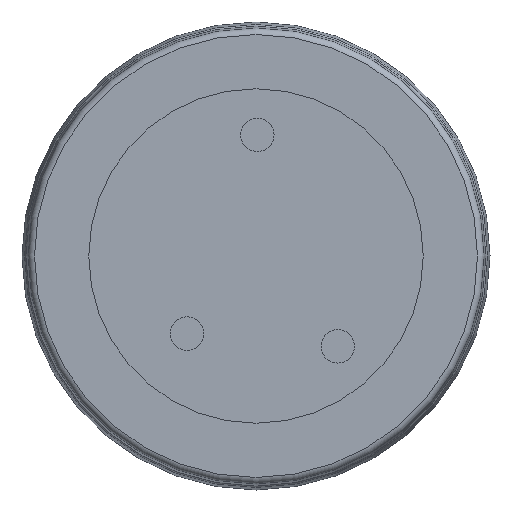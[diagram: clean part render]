
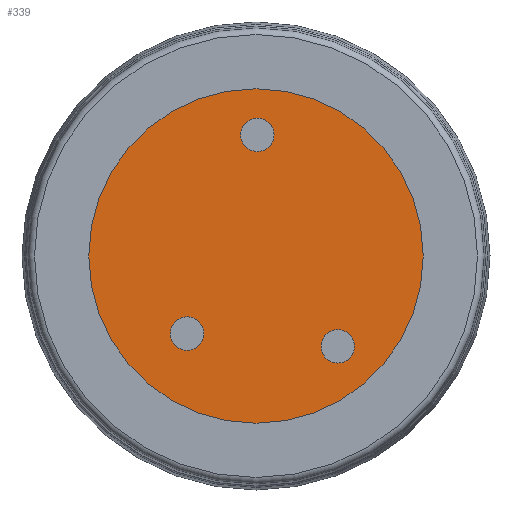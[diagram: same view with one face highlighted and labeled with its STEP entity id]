
A CAD part, left-side view. The second image highlights one B-rep face of the part: STEP entity #339.
In plain terms, the highlighted planar face has unit normal (-1, 0, 0).
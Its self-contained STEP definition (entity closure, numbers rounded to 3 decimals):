
#19=FACE_BOUND('',#89,.T.);
#20=FACE_BOUND('',#90,.T.);
#21=FACE_BOUND('',#91,.T.);
#33=PLANE('',#397);
#61=FACE_OUTER_BOUND('',#88,.T.);
#88=EDGE_LOOP('',(#278));
#89=EDGE_LOOP('',(#279));
#90=EDGE_LOOP('',(#280));
#91=EDGE_LOOP('',(#281));
#142=CIRCLE('',#383,5.);
#144=CIRCLE('',#387,5.);
#146=CIRCLE('',#391,5.);
#149=CIRCLE('',#396,50.);
#172=VERTEX_POINT('',#585);
#174=VERTEX_POINT('',#592);
#176=VERTEX_POINT('',#599);
#179=VERTEX_POINT('',#608);
#204=EDGE_CURVE('',#172,#172,#142,.T.);
#207=EDGE_CURVE('',#174,#174,#144,.T.);
#210=EDGE_CURVE('',#176,#176,#146,.T.);
#215=EDGE_CURVE('',#179,#179,#149,.T.);
#278=ORIENTED_EDGE('',*,*,#215,.F.);
#279=ORIENTED_EDGE('',*,*,#204,.F.);
#280=ORIENTED_EDGE('',*,*,#207,.F.);
#281=ORIENTED_EDGE('',*,*,#210,.F.);
#339=ADVANCED_FACE('',(#61,#19,#20,#21),#33,.F.);
#383=AXIS2_PLACEMENT_3D('',#586,#467,#468);
#387=AXIS2_PLACEMENT_3D('',#593,#476,#477);
#391=AXIS2_PLACEMENT_3D('',#600,#485,#486);
#396=AXIS2_PLACEMENT_3D('',#610,#497,#498);
#397=AXIS2_PLACEMENT_3D('',#611,#499,#500);
#467=DIRECTION('center_axis',(-1.,0.,0.));
#468=DIRECTION('ref_axis',(0.,1.,0.));
#476=DIRECTION('center_axis',(-1.,0.,0.));
#477=DIRECTION('ref_axis',(0.,1.,0.));
#485=DIRECTION('center_axis',(-1.,0.,0.));
#486=DIRECTION('ref_axis',(0.,1.,0.));
#497=DIRECTION('center_axis',(1.,0.,0.));
#498=DIRECTION('ref_axis',(0.,1.,0.));
#499=DIRECTION('center_axis',(1.,0.,0.));
#500=DIRECTION('ref_axis',(0.,1.,0.));
#585=CARTESIAN_POINT('',(50.,-29.449,-27.035));
#586=CARTESIAN_POINT('Origin',(50.,-24.449,-27.035));
#592=CARTESIAN_POINT('',(50.,15.61,-23.197));
#593=CARTESIAN_POINT('Origin',(50.,20.61,-23.197));
#599=CARTESIAN_POINT('',(50.,-5.417,36.214));
#600=CARTESIAN_POINT('Origin',(50.,-0.417,36.214));
#608=CARTESIAN_POINT('',(50.,-50.,0.));
#610=CARTESIAN_POINT('Origin',(50.,0.,0.));
#611=CARTESIAN_POINT('Origin',(50.,0.,0.));
